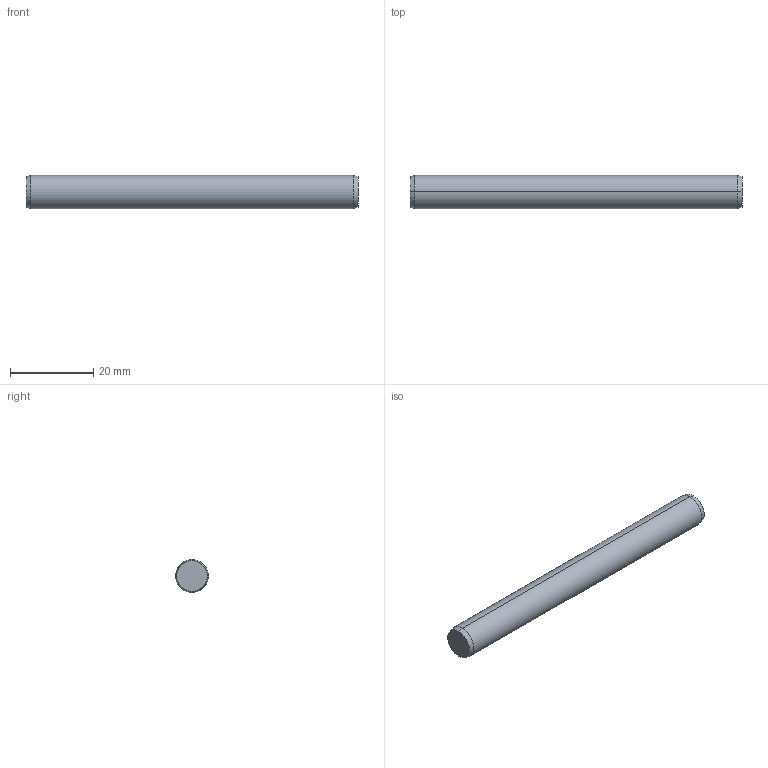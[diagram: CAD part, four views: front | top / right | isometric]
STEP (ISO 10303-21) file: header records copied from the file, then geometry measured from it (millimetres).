
FILE_DESCRIPTION (( 'STEP AP203' ), '1' );
FILE_NAME ('P1206.080-080.step', '2017-06-14T08:29:44', ( 'User' ), ( '' ), 'SwSTEP 2.0', 'SolidWorks 2009', '' );
FILE_SCHEMA (( 'CONFIG_CONTROL_DESIGN' ));
Length unit declared in the file: millimetre
Products named in the file (1): P1206.080-080
Bounding box: 80 x 8 x 8 mm (x, y, z)
Volume: 4011.8 mm3; surface area: 2095.3 mm2
Topology: 1 solids, 1 shells, 8 faces, 14 edges, 8 vertices
Faces by surface type: cone 4, cylinder 2, plane 2
Entity records: 271 total; most frequent: DIRECTION 40, CARTESIAN_POINT 31, ORIENTED_EDGE 28, AXIS2_PLACEMENT_3D 17, EDGE_CURVE 14, PERSON_AND_ORGANIZATION 8, FACE_OUTER_BOUND 8, CIRCLE 8
